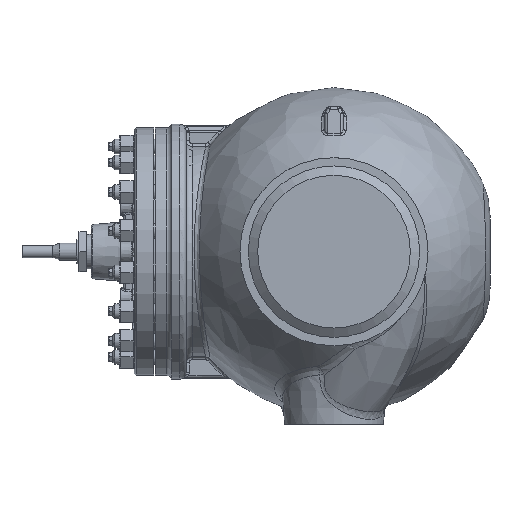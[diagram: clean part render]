
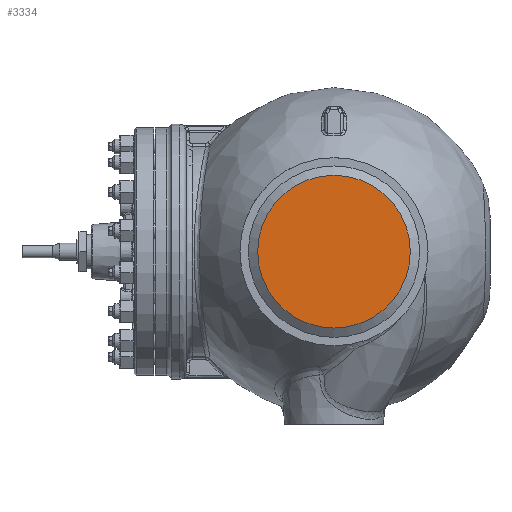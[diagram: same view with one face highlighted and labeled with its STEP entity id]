
A CAD part, left-side view. The second image highlights one B-rep face of the part: STEP entity #3334.
In plain terms, the highlighted planar face has unit normal (-1, 0, 0).
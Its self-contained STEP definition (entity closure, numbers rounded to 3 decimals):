
#625=PLANE('',#18953);
#3334=ADVANCED_FACE('',(#4703),#625,.T.);
#4703=FACE_OUTER_BOUND('',#5690,.T.);
#5690=EDGE_LOOP('',(#8675));
#8675=ORIENTED_EDGE('',*,*,#15540,.T.);
#13833=VERTEX_POINT('',#26646);
#15540=EDGE_CURVE('',#13833,#13833,#18061,.T.);
#18061=CIRCLE('',#18952,123.8);
#18952=AXIS2_PLACEMENT_3D('',#26645,#21016,#21017);
#18953=AXIS2_PLACEMENT_3D('',#26647,#21018,#21019);
#21016=DIRECTION('',(-1.,0.,0.));
#21017=DIRECTION('',(0.,0.,1.));
#21018=DIRECTION('',(-1.,0.,0.));
#21019=DIRECTION('',(0.,0.,1.));
#26645=CARTESIAN_POINT('',(-376.,0.,0.));
#26646=CARTESIAN_POINT('',(-376.,0.,123.8));
#26647=CARTESIAN_POINT('',(-376.,122.3,0.));
